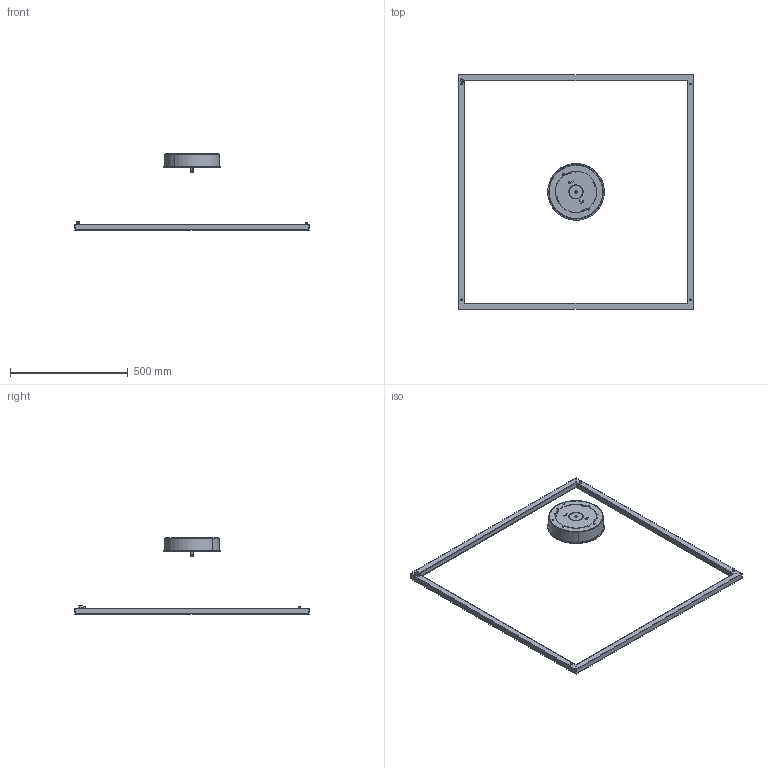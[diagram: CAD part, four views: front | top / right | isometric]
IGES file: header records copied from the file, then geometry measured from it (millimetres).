
Start section: SolidWorks IGES file using analytic representation for surfaces
Global section: file name: W:\FILE_leo_generati smartwork\1-4-20\circus_1000_sq\circus_1000_sq.IGS; native system: SolidWorks 2019; preprocessor: SolidWorks 2019; author: leonardo.cogo; date: 200401.133803; units: millimetre
Bounding box: 995 x 995 x 323.28 mm (x, y, z)
Surface area: 1116762.2 mm2 (no closed solid volume)
Topology: 0 solids, 0 shells, 860 faces, 10524 edges, 10524 vertices
Faces by surface type: revolution 437, bspline 423
